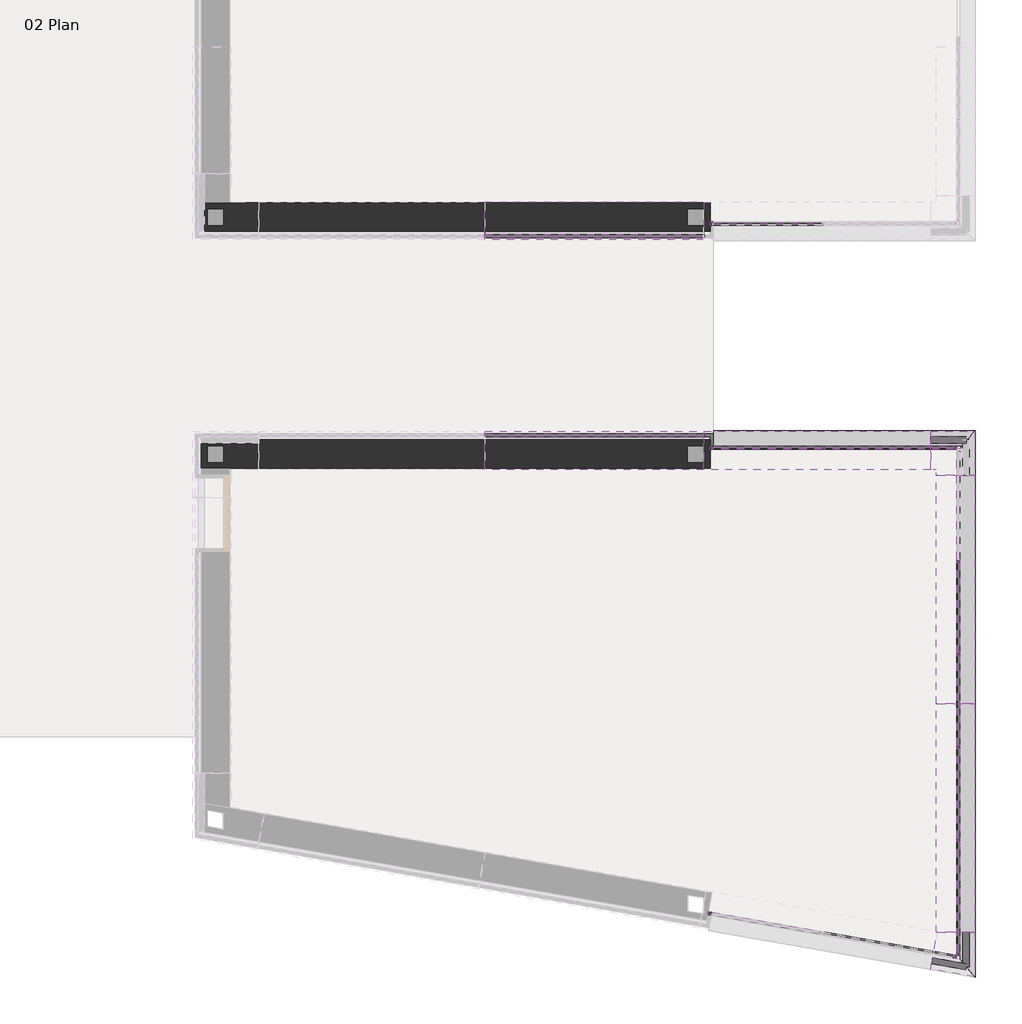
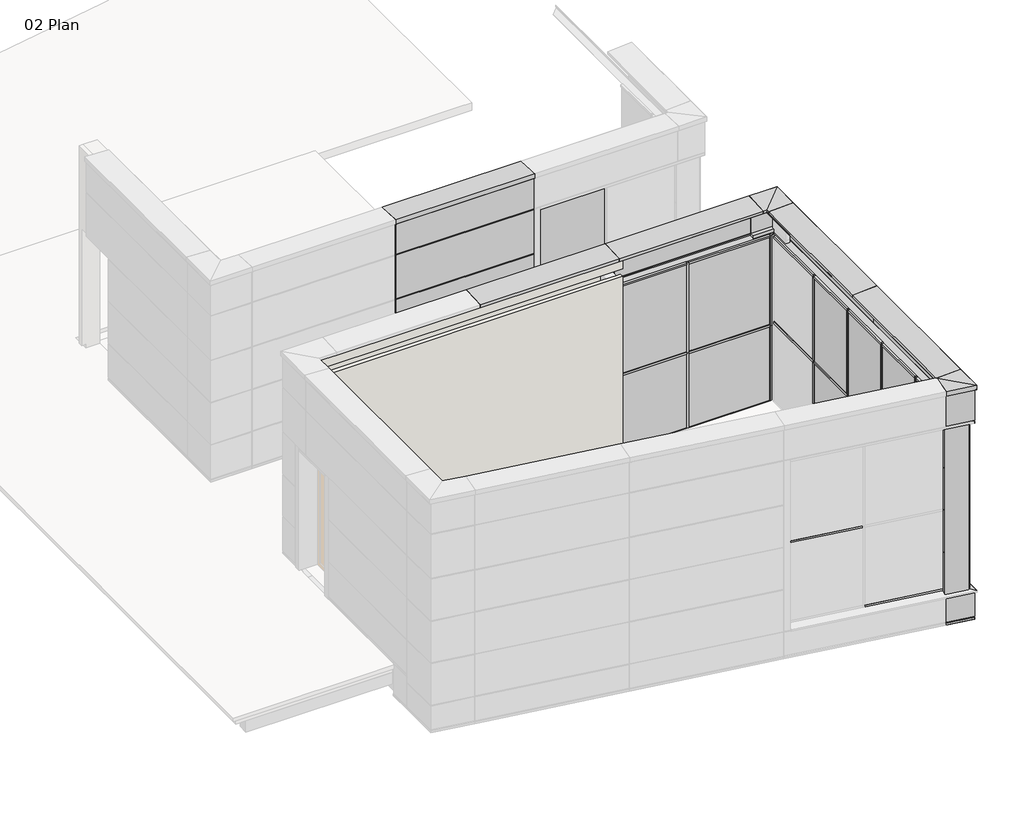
# One storey, part 2 of 6: 47 plates, 46 members, 2 walls.
"""IFC4 building model written with IfcOpenShell, lengths in millimetres."""

from ifc_helpers import new_model, si_unit, origin, place, context, project, spatial, faceted_brep, transform, mapped, element, save
from components import rectangular_mullion_850a0757, rectangular_mullion_f53c5060, rectangular_mullion_af3bd679, rectangular_mullion_539ee6f9, rectangular_mullion_73658c05, rectangular_mullion_dec3059a, rectangular_mullion_8c95c825, rectangular_mullion_a8cc1a1c, rectangular_mullion_915eebd7, rectangular_mullion_38df19ef, rectangular_mullion_461e8916, rectangular_mullion_a225a146, rectangular_mullion_ccb72c30, rectangular_mullion_8513d4ac, rectangular_mullion_322f0c36, rectangular_mullion_cadd6f80, rectangular_mullion_d86f52d7, rectangular_mullion_82dcb137, rectangular_mullion_d40b3f67, rectangular_mullion_7ea7b6c0, rectangular_mullion_30edb573, rectangular_mullion_a2a1290c, rectangular_mullion_f47001dd, rectangular_mullion_888ece7a, rectangular_mullion_a3a34f99, plate_e5f96406, plate_ab3ce5dd, plate_11fb3f57, plate_91b26778, plate_f7d04e19, plate_5e821559, plate_1b8ac71a, plate_b22128cc, plate_62542947, plate_eff8318d, plate_9de24f4d, plate_545d6f73, plate_fe7791f1, plate_de9454b3, empty_system_panel_empty_c4bc2ccb, empty_system_panel_empty_1f0196b9, empty_system_panel_empty_e38a5639, empty_system_panel_empty_568ba75f, empty_system_panel_empty_5409ad96, empty_system_panel_empty_afbb3e91, empty_system_panel_empty_42881ea0, empty_system_panel_empty_753c3ce6, empty_system_panel_empty_c7119242, system_panel_916e9981, system_panel_86b88c2a, system_panel_117f5864, system_panel_4ba8ea04, system_panel_da571503, system_panel_247cbe18, system_panel_5fdebb05, system_panel_5e5adc26, system_panel_c7027d83, system_panel_ba7213d4

model = new_model("IFC4")

# Units and contexts
model_context = context("Model", 3, world=origin())
ifc_project = project(units=[si_unit("LENGTHUNIT", "METRE", prefix="MILLI")], contexts=[model_context])

# Site, building, storey
site = spatial("IfcSite", under=ifc_project)
building = spatial("IfcBuilding", under=site)
storey = spatial("IfcBuildingStorey", under=building, Name="02 Plan", Elevation=0.0)

# Members
placement = place(None, origin())
rectangular_mullion_shape = rectangular_mullion_850a0757(model_context)
element("IfcMember", 1, ObjectType="Rectangular Mullion : Mullion_Curtain Wall_Generic Showcase_50x50mm", at=placement, inside=storey, context=model_context, shape_type="MappedRepresentation", body=[
    mapped(rectangular_mullion_shape, transform((4018.0263241, -13916.5455269, -100.0), x_axis=(-0.984807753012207, 0.17364817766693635, 0.0), y_axis=(0.17364817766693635, 0.984807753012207, 0.0), z_axis=(0.0, 0.0, -1.0))),
])
element("IfcMember", 2, ObjectType="Rectangular Mullion : Mullion_Curtain Wall_Generic Showcase_50x50mm", at=placement, inside=storey, context=model_context, shape_type="MappedRepresentation", body=[
    mapped(rectangular_mullion_shape, transform((4050.6615063, -3004.4104565, -100.0), x_axis=(-1.0, 0.0, 0.0), y_axis=(0.0, 1.0, 0.0), z_axis=(0.0, 0.0, -1.0))),
])
element("IfcMember", 3, ObjectType="Rectangular Mullion : Mullion_Curtain Wall_Generic Showcase_50x50mm", at=placement, inside=storey, context=model_context, shape_type="MappedRepresentation", body=[
    mapped(rectangular_mullion_shape, transform((8000.6615063, -14559.2038842, -100.0), x_axis=(0.0, -1.0, 0.0), y_axis=(-1.0, 0.0, 0.0), z_axis=(0.0, 0.0, -1.0))),
])
element("IfcMember", 4, ObjectType="Rectangular Mullion : Mullion_Curtain Wall_Generic Showcase_50x50mm", at=placement, inside=storey, context=model_context, shape_type="MappedRepresentation", body=[
    mapped(rectangular_mullion_shape, transform((7941.9790974, -14608.4442718, 2075.0), x_axis=(0.984807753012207, -0.17364817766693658, 0.0), y_axis=(0.17364817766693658, 0.984807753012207, 0.0), z_axis=(0.0, 0.0, 1.0))),
])
rectangular_mullion_2_shape = rectangular_mullion_f53c5060(model_context)
element("IfcMember", 5, ObjectType="Rectangular Mullion : Mullion_Curtain Wall_Generic Showcase_50x50mm", at=placement, inside=storey, context=model_context, shape_type="MappedRepresentation", body=[
    mapped(rectangular_mullion_2_shape, transform((7950.6615063, -6504.4104565, -100.0), x_axis=(1.0, 0.0, 0.0), y_axis=(0.0, -1.0, 0.0), z_axis=(0.0, 0.0, -1.0))),
])
element("IfcMember", 6, ObjectType="Rectangular Mullion : Mullion_Curtain Wall_Generic Showcase_50x50mm", at=placement, inside=storey, context=model_context, shape_type="MappedRepresentation", body=[
    mapped(rectangular_mullion_2_shape, transform((4050.6615063, -6504.4104565, 1975.0), x_axis=(-1.0, 0.0, 0.0), y_axis=(0.0, -1.0, 0.0), z_axis=(0.0, 0.0, 1.0))),
])
rectangular_mullion_3_shape = rectangular_mullion_af3bd679(model_context)
element("IfcMember", 7, ObjectType="Rectangular Mullion : Mullion_Curtain Wall_Generic Showcase_50x50mm", at=placement, inside=storey, context=model_context, shape_type="MappedRepresentation", body=[
    mapped(rectangular_mullion_3_shape, transform((4067.2667117, -13925.2279357, 4350.0), x_axis=(0.0, 0.0, 1.0), y_axis=(0.17364817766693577, 0.9848077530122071, 0.0), z_axis=(-0.9848077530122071, 0.17364817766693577, 0.0))),
])
rectangular_mullion_4_shape = rectangular_mullion_539ee6f9(model_context)
element("IfcMember", 8, ObjectType="Rectangular Mullion : Mullion_Curtain Wall_Generic Showcase_50x50mm", at=placement, inside=storey, context=model_context, shape_type="MappedRepresentation", body=[
    mapped(rectangular_mullion_4_shape, transform((4067.2667117, -13925.2279357, 2075.0), x_axis=(0.0, 0.0, 1.0), y_axis=(0.17364817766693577, 0.9848077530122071, 0.0), z_axis=(-0.9848077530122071, 0.17364817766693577, 0.0))),
])
rectangular_mullion_5_shape = rectangular_mullion_73658c05(model_context)
element("IfcMember", 9, ObjectType="Rectangular Mullion : Mullion_Curtain Wall_Generic Showcase_50x50mm", at=placement, inside=storey, context=model_context, shape_type="MappedRepresentation", body=[
    mapped(rectangular_mullion_5_shape, transform((4100.6615063, -3004.4104565, 4350.0), x_axis=(0.0, 0.0, 1.0), y_axis=(0.0, 1.0, 0.0), z_axis=(-1.0, 0.0, 0.0))),
])
element("IfcMember", 10, ObjectType="Rectangular Mullion : Mullion_Curtain Wall_Generic Showcase_50x50mm", at=placement, inside=storey, context=model_context, shape_type="MappedRepresentation", body=[
    mapped(rectangular_mullion_5_shape, transform((5825.6615063, -6504.4104565, 4350.0), x_axis=(0.0, 0.0, 1.0), y_axis=(0.0, -1.0, 0.0), z_axis=(1.0, 0.0, 0.0))),
])
rectangular_mullion_6_shape = rectangular_mullion_dec3059a(model_context)
element("IfcMember", 11, ObjectType="Rectangular Mullion : Mullion_Curtain Wall_Generic Showcase_50x100mm", at=placement, inside=storey, context=model_context, shape_type="MappedRepresentation", body=[
    mapped(rectangular_mullion_6_shape, transform((4100.6615063, -6504.4104565, -100.0), x_axis=(0.0, 0.0, -1.0), y_axis=(0.0, -1.0, 0.0), z_axis=(-1.0, 0.0, 0.0))),
])
rectangular_mullion_7_shape = rectangular_mullion_8c95c825(model_context)
element("IfcMember", 12, ObjectType="Rectangular Mullion : Mullion_Curtain Wall_Generic Showcase_50x50mm", at=placement, inside=storey, context=model_context, shape_type="MappedRepresentation", body=[
    mapped(rectangular_mullion_7_shape, transform((5825.6615063, -6504.4104565, 1975.0), x_axis=(0.0, 0.0, 1.0), y_axis=(0.0, -1.0, 0.0), z_axis=(1.0, 0.0, 0.0))),
])
rectangular_mullion_8_shape = rectangular_mullion_a8cc1a1c(model_context)
element("IfcMember", 13, ObjectType="Rectangular Mullion : Mullion_Curtain Wall_Generic Showcase_50x50mm", at=placement, inside=storey, context=model_context, shape_type="MappedRepresentation", body=[
    mapped(rectangular_mullion_8_shape, transform((5850.6615063, -6504.4104565, -100.0), x_axis=(1.0, 0.0, 0.0), y_axis=(0.0, -1.0, 0.0), z_axis=(0.0, 0.0, -1.0))),
])
rectangular_mullion_9_shape = rectangular_mullion_915eebd7(model_context)
element("IfcMember", 14, ObjectType="Rectangular Mullion : Mullion_Curtain Wall_Generic Showcase_50x50mm", at=placement, inside=storey, context=model_context, shape_type="MappedRepresentation", body=[
    mapped(rectangular_mullion_9_shape, transform((7941.9790974, -14608.4442718, 4350.0), x_axis=(0.984807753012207, -0.17364817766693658, 0.0), y_axis=(0.17364817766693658, 0.984807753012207, 0.0), z_axis=(0.0, 0.0, 1.0))),
])
element("IfcMember", 15, ObjectType="Rectangular Mullion : Mullion_Curtain Wall_Generic Showcase_50x50mm", at=placement, inside=storey, context=model_context, shape_type="MappedRepresentation", body=[
    mapped(rectangular_mullion_9_shape, transform((4018.0263241, -13916.5455269, 2075.0), x_axis=(-0.984807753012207, 0.17364817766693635, 0.0), y_axis=(0.17364817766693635, 0.984807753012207, 0.0), z_axis=(0.0, 0.0, -1.0))),
])
element("IfcMember", 16, ObjectType="Rectangular Mullion : Mullion_Curtain Wall_Generic Showcase_50x50mm", at=placement, inside=storey, context=model_context, shape_type="MappedRepresentation", body=[
    mapped(rectangular_mullion_9_shape, transform((4050.6615063, -3004.4104565, 2075.0), x_axis=(-1.0, 0.0, 0.0), y_axis=(0.0, 1.0, 0.0), z_axis=(0.0, 0.0, -1.0))),
])
rectangular_mullion_10_shape = rectangular_mullion_38df19ef(model_context)
element("IfcMember", 17, ObjectType="Rectangular Mullion : Mullion_Curtain Wall_Generic Showcase_50x50mm", at=placement, inside=storey, context=model_context, shape_type="MappedRepresentation", body=[
    mapped(rectangular_mullion_10_shape, transform((4050.6615063, -6504.4104565, 4350.0), x_axis=(-1.0, 0.0, 0.0), y_axis=(0.0, -1.0, 0.0), z_axis=(0.0, 0.0, 1.0))),
])
element("IfcMember", 18, ObjectType="Rectangular Mullion : Mullion_Curtain Wall_Generic Showcase_50x50mm", at=placement, inside=storey, context=model_context, shape_type="MappedRepresentation", body=[
    mapped(rectangular_mullion_10_shape, transform((7950.6615063, -6504.4104565, 1975.0), x_axis=(1.0, 0.0, 0.0), y_axis=(0.0, -1.0, 0.0), z_axis=(0.0, 0.0, -1.0))),
])
rectangular_mullion_11_shape = rectangular_mullion_461e8916(model_context)
element("IfcMember", 19, ObjectType="Rectangular Mullion : Mullion_Curtain Wall_Generic Showcase_50x50mm", at=placement, inside=storey, context=model_context, shape_type="MappedRepresentation", body=[
    mapped(rectangular_mullion_11_shape, transform((5850.6615063, -6504.4104565, 1975.0), x_axis=(1.0, 0.0, 0.0), y_axis=(0.0, -1.0, 0.0), z_axis=(0.0, 0.0, -1.0))),
])
rectangular_mullion_12_shape = rectangular_mullion_a225a146(model_context)
element("IfcMember", 20, ObjectType="Rectangular Mullion : Mullion_Curtain Wall_Generic Showcase_50x100mm", at=placement, inside=storey, context=model_context, shape_type="MappedRepresentation", body=[
    mapped(rectangular_mullion_12_shape, transform((7892.7387098, -14599.7618629, -100.0), x_axis=(0.0, 0.0, -1.0), y_axis=(0.17364817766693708, 0.9848077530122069, 0.0), z_axis=(0.9848077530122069, -0.17364817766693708, 0.0))),
])
rectangular_mullion_13_shape = rectangular_mullion_ccb72c30(model_context)
element("IfcMember", 21, ObjectType="Rectangular Mullion : Mullion_Curtain Wall_Generic Showcase_50x50mm", at=placement, inside=storey, context=model_context, shape_type="MappedRepresentation", body=[
    mapped(rectangular_mullion_13_shape, transform((7900.6615063, -6504.4104565, 4350.0), x_axis=(0.0, 0.0, 1.0), y_axis=(0.0, -1.0, 0.0), z_axis=(1.0, 0.0, 0.0))),
])
rectangular_mullion_14_shape = rectangular_mullion_8513d4ac(model_context)
element("IfcMember", 22, ObjectType="Rectangular Mullion : Mullion_Curtain Wall_Generic Showcase_50x100mm", at=placement, inside=storey, context=model_context, shape_type="MappedRepresentation", body=[
    mapped(rectangular_mullion_14_shape, transform((5875.6615063, -6504.4104565, -100.0), x_axis=(0.0, 0.0, -1.0), y_axis=(0.0, -1.0, 0.0), z_axis=(-1.0, 0.0, 0.0))),
])
rectangular_mullion_15_shape = rectangular_mullion_322f0c36(model_context)
element("IfcMember", 23, ObjectType="Rectangular Mullion : Mullion_Curtain Wall_Generic Showcase_50x50mm", at=placement, inside=storey, context=model_context, shape_type="MappedRepresentation", body=[
    mapped(rectangular_mullion_15_shape, transform((7900.6615063, -6504.4104565, 1975.0), x_axis=(0.0, 0.0, 1.0), y_axis=(0.0, -1.0, 0.0), z_axis=(1.0, 0.0, 0.0))),
])
rectangular_mullion_16_shape = rectangular_mullion_cadd6f80(model_context)
element("IfcMember", 24, ObjectType="Rectangular Mullion : Mullion_Curtain Wall_Generic Showcase_50x50mm", at=placement, inside=storey, context=model_context, shape_type="MappedRepresentation", body=[
    mapped(rectangular_mullion_16_shape, transform((8000.6615063, -14509.2038842, 4350.0), x_axis=(0.0, 0.0, 1.0), y_axis=(-1.0, 0.0, 0.0), z_axis=(0.0, -1.0, 0.0))),
])
rectangular_mullion_17_shape = rectangular_mullion_d86f52d7(model_context)
element("IfcMember", 25, ObjectType="Rectangular Mullion : Mullion_Curtain Wall_Generic Showcase_50x100mm", at=placement, inside=storey, context=model_context, shape_type="MappedRepresentation", body=[
    mapped(rectangular_mullion_17_shape, transform((8000.6615063, -8348.8639265, -100.0), x_axis=(0.0, 0.0, -1.0), y_axis=(-1.0, 0.0, 0.0), z_axis=(0.0, 1.0, 0.0))),
])
element("IfcMember", 26, ObjectType="Rectangular Mullion : Mullion_Curtain Wall_Generic Showcase_50x100mm", at=placement, inside=storey, context=model_context, shape_type="MappedRepresentation", body=[
    mapped(rectangular_mullion_17_shape, transform((8000.6615063, -9818.3173965, -100.0), x_axis=(0.0, 0.0, -1.0), y_axis=(-1.0, 0.0, 0.0), z_axis=(0.0, 1.0, 0.0))),
])
element("IfcMember", 27, ObjectType="Rectangular Mullion : Mullion_Curtain Wall_Generic Showcase_50x100mm", at=placement, inside=storey, context=model_context, shape_type="MappedRepresentation", body=[
    mapped(rectangular_mullion_17_shape, transform((8000.6615063, -11287.7708664, -100.0), x_axis=(0.0, 0.0, -1.0), y_axis=(-1.0, 0.0, 0.0), z_axis=(0.0, 1.0, 0.0))),
])
rectangular_mullion_18_shape = rectangular_mullion_82dcb137(model_context)
element("IfcMember", 28, ObjectType="Rectangular Mullion : Mullion_Curtain Wall_Generic Showcase_50x50mm", at=placement, inside=storey, context=model_context, shape_type="MappedRepresentation", body=[
    mapped(rectangular_mullion_18_shape, transform((8000.6615063, -9768.3173965, 2075.0), x_axis=(0.0, 0.0, 1.0), y_axis=(-1.0, 0.0, 0.0), z_axis=(0.0, -1.0, 0.0))),
])
element("IfcMember", 29, ObjectType="Rectangular Mullion : Mullion_Curtain Wall_Generic Showcase_50x50mm", at=placement, inside=storey, context=model_context, shape_type="MappedRepresentation", body=[
    mapped(rectangular_mullion_18_shape, transform((8000.6615063, -11237.7708664, 2075.0), x_axis=(0.0, 0.0, 1.0), y_axis=(-1.0, 0.0, 0.0), z_axis=(0.0, -1.0, 0.0))),
])
element("IfcMember", 30, ObjectType="Rectangular Mullion : Mullion_Curtain Wall_Generic Showcase_50x50mm", at=placement, inside=storey, context=model_context, shape_type="MappedRepresentation", body=[
    mapped(rectangular_mullion_18_shape, transform((8000.6615063, -12707.2243364, 2075.0), x_axis=(0.0, 0.0, 1.0), y_axis=(-1.0, 0.0, 0.0), z_axis=(0.0, -1.0, 0.0))),
])
rectangular_mullion_19_shape = rectangular_mullion_d40b3f67(model_context)
element("IfcMember", 31, ObjectType="Rectangular Mullion : Mullion_Curtain Wall_Generic Showcase_50x50mm", at=placement, inside=storey, context=model_context, shape_type="MappedRepresentation", body=[
    mapped(rectangular_mullion_19_shape, transform((8000.6615063, -8323.8639265, -100.0), x_axis=(0.0, -1.0, 0.0), y_axis=(-1.0, 0.0, 0.0), z_axis=(0.0, 0.0, -1.0))),
])
element("IfcMember", 32, ObjectType="Rectangular Mullion : Mullion_Curtain Wall_Generic Showcase_50x50mm", at=placement, inside=storey, context=model_context, shape_type="MappedRepresentation", body=[
    mapped(rectangular_mullion_19_shape, transform((8000.6615063, -9793.3173965, -100.0), x_axis=(0.0, -1.0, 0.0), y_axis=(-1.0, 0.0, 0.0), z_axis=(0.0, 0.0, -1.0))),
])
element("IfcMember", 33, ObjectType="Rectangular Mullion : Mullion_Curtain Wall_Generic Showcase_50x50mm", at=placement, inside=storey, context=model_context, shape_type="MappedRepresentation", body=[
    mapped(rectangular_mullion_19_shape, transform((8000.6615063, -11262.7708664, -100.0), x_axis=(0.0, -1.0, 0.0), y_axis=(-1.0, 0.0, 0.0), z_axis=(0.0, 0.0, -1.0))),
])
element("IfcMember", 34, ObjectType="Rectangular Mullion : Mullion_Curtain Wall_Generic Showcase_50x50mm", at=placement, inside=storey, context=model_context, shape_type="MappedRepresentation", body=[
    mapped(rectangular_mullion_19_shape, transform((8000.6615063, -12732.2243364, -100.0), x_axis=(0.0, -1.0, 0.0), y_axis=(-1.0, 0.0, 0.0), z_axis=(0.0, 0.0, -1.0))),
])
rectangular_mullion_20_shape = rectangular_mullion_7ea7b6c0(model_context)
element("IfcMember", 35, ObjectType="Rectangular Mullion : Mullion_Curtain Wall_Generic Showcase_50x50mm", at=placement, inside=storey, context=model_context, shape_type="MappedRepresentation", body=[
    mapped(rectangular_mullion_20_shape, transform((8000.6615063, -8323.8639265, 2075.0), x_axis=(0.0, -1.0, 0.0), y_axis=(-1.0, 0.0, 0.0), z_axis=(0.0, 0.0, -1.0))),
])
element("IfcMember", 36, ObjectType="Rectangular Mullion : Mullion_Curtain Wall_Generic Showcase_50x50mm", at=placement, inside=storey, context=model_context, shape_type="MappedRepresentation", body=[
    mapped(rectangular_mullion_20_shape, transform((8000.6615063, -9793.3173965, 2075.0), x_axis=(0.0, -1.0, 0.0), y_axis=(-1.0, 0.0, 0.0), z_axis=(0.0, 0.0, -1.0))),
])
element("IfcMember", 37, ObjectType="Rectangular Mullion : Mullion_Curtain Wall_Generic Showcase_50x50mm", at=placement, inside=storey, context=model_context, shape_type="MappedRepresentation", body=[
    mapped(rectangular_mullion_20_shape, transform((8000.6615063, -11262.7708664, 2075.0), x_axis=(0.0, -1.0, 0.0), y_axis=(-1.0, 0.0, 0.0), z_axis=(0.0, 0.0, -1.0))),
])
element("IfcMember", 38, ObjectType="Rectangular Mullion : Mullion_Curtain Wall_Generic Showcase_50x50mm", at=placement, inside=storey, context=model_context, shape_type="MappedRepresentation", body=[
    mapped(rectangular_mullion_20_shape, transform((8000.6615063, -12732.2243364, 2075.0), x_axis=(0.0, -1.0, 0.0), y_axis=(-1.0, 0.0, 0.0), z_axis=(0.0, 0.0, -1.0))),
])
rectangular_mullion_21_shape = rectangular_mullion_30edb573(model_context)
element("IfcMember", 39, ObjectType="Rectangular Mullion : Mullion_Curtain Wall_Generic Showcase_50x50mm", at=placement, inside=storey, context=model_context, shape_type="MappedRepresentation", body=[
    mapped(rectangular_mullion_21_shape, transform((8000.6615063, -9768.3173965, 4350.0), x_axis=(0.0, 0.0, 1.0), y_axis=(-1.0, 0.0, 0.0), z_axis=(0.0, -1.0, 0.0))),
])
element("IfcMember", 40, ObjectType="Rectangular Mullion : Mullion_Curtain Wall_Generic Showcase_50x50mm", at=placement, inside=storey, context=model_context, shape_type="MappedRepresentation", body=[
    mapped(rectangular_mullion_21_shape, transform((8000.6615063, -11237.7708664, 4350.0), x_axis=(0.0, 0.0, 1.0), y_axis=(-1.0, 0.0, 0.0), z_axis=(0.0, -1.0, 0.0))),
])
element("IfcMember", 41, ObjectType="Rectangular Mullion : Mullion_Curtain Wall_Generic Showcase_50x50mm", at=placement, inside=storey, context=model_context, shape_type="MappedRepresentation", body=[
    mapped(rectangular_mullion_21_shape, transform((8000.6615063, -12707.2243364, 4350.0), x_axis=(0.0, 0.0, 1.0), y_axis=(-1.0, 0.0, 0.0), z_axis=(0.0, -1.0, 0.0))),
])
rectangular_mullion_22_shape = rectangular_mullion_a2a1290c(model_context)
element("IfcMember", 42, ObjectType="Rectangular Mullion : Mullion_Curtain Wall_Generic Showcase_50x100mm", at=placement, inside=storey, context=model_context, shape_type="MappedRepresentation", body=[
    mapped(rectangular_mullion_22_shape, transform((8000.6615063, -12757.2243364, -100.0), x_axis=(0.0, 0.0, -1.0), y_axis=(-1.0, 0.0, 0.0), z_axis=(0.0, 1.0, 0.0))),
])
rectangular_mullion_23_shape = rectangular_mullion_f47001dd(model_context)
element("IfcMember", 43, ObjectType="Rectangular Mullion : Mullion_Curtain Wall_Generic Showcase_50x50mm", at=placement, inside=storey, context=model_context, shape_type="MappedRepresentation", body=[
    mapped(rectangular_mullion_23_shape, transform((8000.6615063, -14509.2038842, 2075.0), x_axis=(0.0, 0.0, 1.0), y_axis=(-1.0, 0.0, 0.0), z_axis=(0.0, -1.0, 0.0))),
])
element("IfcMember", 44, ObjectType="Rectangular Mullion : Mullion_Curtain Wall_Generic Showcase_50x50mm", at=placement, inside=storey, context=model_context, shape_type="MappedRepresentation", body=[
    mapped(rectangular_mullion_9_shape, transform((8000.6615063, -14559.2038842, 2075.0), x_axis=(0.0, -1.0, 0.0), y_axis=(-1.0, 0.0, 0.0), z_axis=(0.0, 0.0, -1.0))),
])
rectangular_mullion_24_shape = rectangular_mullion_888ece7a(model_context)
element("IfcMember", 45, ObjectType="Rectangular Mullion : Mullion_Curtain Wall_Generic Showcase_50x50mm", at=placement, inside=storey, context=model_context, shape_type="MappedRepresentation", body=[
    mapped(rectangular_mullion_24_shape, transform((8000.6615063, -8298.8639265, 2075.0), x_axis=(0.0, 0.0, 1.0), y_axis=(-1.0, 0.0, 0.0), z_axis=(0.0, -1.0, 0.0))),
])
rectangular_mullion_25_shape = rectangular_mullion_a3a34f99(model_context)
element("IfcMember", 46, ObjectType="Rectangular Mullion : Mullion_Curtain Wall_Generic Showcase_50x50mm", at=placement, inside=storey, context=model_context, shape_type="MappedRepresentation", body=[
    mapped(rectangular_mullion_25_shape, transform((8000.6615063, -8298.8639265, 4350.0), x_axis=(0.0, 0.0, 1.0), y_axis=(-1.0, 0.0, 0.0), z_axis=(0.0, -1.0, 0.0))),
])

# Plates
plate_shape = plate_e5f96406(model_context)
element("IfcPlate", 47, ObjectType="Trimo_Qbiss Screen_L Corner Panel-HORIZONTAL : HR - B", at=placement, inside=storey, context=model_context, shape_type="MappedRepresentation", body=[
    mapped(plate_shape, transform((8100.6615063, -14466.3046027, -750.0), x_axis=(0.0, -1.0, 0.0), y_axis=(1.0, 0.0, 0.0), z_axis=(0.0, 0.0, 1.0))),
])
plate_2_shape = plate_ab3ce5dd(model_context)
element("IfcPlate", 48, ObjectType="Trimo_Qbiss Screen_L Corner Panel-HORIZONTAL : HR - B", at=placement, inside=storey, context=model_context, shape_type="MappedRepresentation", body=[
    mapped(plate_2_shape, transform((8100.6615063, -14466.3046027, 4410.0), x_axis=(0.0, -1.0, 0.0), y_axis=(1.0, 0.0, 0.0), z_axis=(0.0, 0.0, 1.0))),
])
plate_3_shape = plate_11fb3f57(model_context)
element("IfcPlate", 49, ObjectType="Trimo_Qbiss Screen_L Corner Panel-HORIZONTAL : HR - B", at=placement, inside=storey, context=model_context, shape_type="MappedRepresentation", body=[
    mapped(plate_3_shape, transform((7819.4115063, -6404.4104565, 4410.0), x_axis=(1.0, 0.0, 0.0), y_axis=(0.0, 1.0, 0.0), z_axis=(0.0, 0.0, 1.0))),
])
plate_4_shape = plate_91b26778(model_context)
element("IfcPlate", 50, ObjectType="Trimo_Qbiss Screen_L Corner Panel-HORIZONTAL : HR - B", at=placement, inside=storey, context=model_context, shape_type="MappedRepresentation", body=[
    mapped(plate_4_shape, transform((7819.4115063, -6404.4104565, -750.0), x_axis=(1.0, 0.0, 0.0), y_axis=(0.0, 1.0, 0.0), z_axis=(0.0, 0.0, 1.0))),
])
plate_5_shape = plate_f7d04e19(model_context)
element("IfcPlate", 51, ObjectType="Trimo_Qbiss Screen_Normal Panel-HORIZONTAL : HR - B", at=placement, inside=storey, context=model_context, shape_type="MappedRepresentation", body=[
    mapped(plate_5_shape, transform((2220.6615063, -3104.4104565, 4410.0), x_axis=(-1.0, 0.0, 0.0), y_axis=(0.0, -1.0, 0.0), z_axis=(0.0, 0.0, 1.0))),
])
element("IfcPlate", 52, ObjectType="Trimo_Qbiss Screen_Normal Panel-HORIZONTAL : HR - B", at=placement, inside=storey, context=model_context, shape_type="MappedRepresentation", body=[
    mapped(plate_5_shape, transform((2220.6615063, -6404.4104565, 4410.0), x_axis=(1.0, 0.0, 0.0), y_axis=(0.0, 1.0, 0.0), z_axis=(0.0, 0.0, 1.0))),
])
plate_6_shape = plate_5e821559(model_context)
element("IfcPlate", 53, ObjectType="Trimo_Qbiss Screen_Normal Panel-HORIZONTAL : HR - B", at=placement, inside=storey, context=model_context, shape_type="MappedRepresentation", body=[
    mapped(plate_6_shape, transform((8100.6615063, -12387.7093259, -750.0), x_axis=(0.0, -1.0, 0.0), y_axis=(1.0, 0.0, 0.0), z_axis=(0.0, 0.0, 1.0))),
])
element("IfcPlate", 54, ObjectType="Trimo_Qbiss Screen_Normal Panel-HORIZONTAL : HR - B", at=placement, inside=storey, context=model_context, shape_type="MappedRepresentation", body=[
    mapped(plate_6_shape, transform((8100.6615063, -8773.843413, -750.0), x_axis=(0.0, -1.0, 0.0), y_axis=(1.0, 0.0, 0.0), z_axis=(0.0, 0.0, 1.0))),
])
plate_7_shape = plate_1b8ac71a(model_context)
element("IfcPlate", 55, ObjectType="Trimo_Qbiss Screen_Normal Panel-HORIZONTAL : HR - B", at=placement, inside=storey, context=model_context, shape_type="MappedRepresentation", body=[
    mapped(plate_7_shape, transform((8100.6615063, -12387.7093259, 4410.0), x_axis=(0.0, -1.0, 0.0), y_axis=(1.0, 0.0, 0.0), z_axis=(0.0, 0.0, 1.0))),
])
element("IfcPlate", 56, ObjectType="Trimo_Qbiss Screen_Normal Panel-HORIZONTAL : HR - B", at=placement, inside=storey, context=model_context, shape_type="MappedRepresentation", body=[
    mapped(plate_7_shape, transform((8100.6615063, -8773.843413, 4410.0), x_axis=(0.0, -1.0, 0.0), y_axis=(1.0, 0.0, 0.0), z_axis=(0.0, 0.0, 1.0))),
])
plate_8_shape = plate_b22128cc(model_context)
element("IfcPlate", 57, ObjectType="Trimo_Qbiss Screen_Normal Panel-HORIZONTAL : HR - B", at=placement, inside=storey, context=model_context, shape_type="MappedRepresentation", body=[
    mapped(plate_8_shape, transform((2220.6615063, -6404.4104565, 3237.5), x_axis=(1.0, 0.0, 0.0), y_axis=(0.0, 1.0, 0.0), z_axis=(0.0, 0.0, 1.0))),
])
element("IfcPlate", 58, ObjectType="Trimo_Qbiss Screen_Normal Panel-HORIZONTAL : HR - B", at=placement, inside=storey, context=model_context, shape_type="MappedRepresentation", body=[
    mapped(plate_8_shape, transform((2220.6615063, -3104.4104565, 3237.5), x_axis=(-1.0, 0.0, 0.0), y_axis=(0.0, -1.0, 0.0), z_axis=(0.0, 0.0, 1.0))),
])
plate_9_shape = plate_62542947(model_context)
element("IfcPlate", 59, ObjectType="Trimo_Qbiss Screen_Normal Panel-HORIZONTAL : HR - B", at=placement, inside=storey, context=model_context, shape_type="MappedRepresentation", body=[
    mapped(plate_9_shape, transform((2220.6615063, -3104.4104565, 100.0), x_axis=(-1.0, 0.0, 0.0), y_axis=(0.0, -1.0, 0.0), z_axis=(0.0, 0.0, 1.0))),
])
element("IfcPlate", 60, ObjectType="Trimo_Qbiss Screen_Normal Panel-HORIZONTAL : HR - B", at=placement, inside=storey, context=model_context, shape_type="MappedRepresentation", body=[
    mapped(plate_9_shape, transform((2220.6615063, -6404.4104565, 100.0), x_axis=(1.0, 0.0, 0.0), y_axis=(0.0, 1.0, 0.0), z_axis=(0.0, 0.0, 1.0))),
])
plate_10_shape = plate_eff8318d(model_context)
element("IfcPlate", 61, ObjectType="Trimo_Qbiss Screen_Normal Panel-HORIZONTAL : HR - B", at=placement, inside=storey, context=model_context, shape_type="MappedRepresentation", body=[
    mapped(plate_10_shape, transform((2220.6615063, -6404.4104565, 1012.5), x_axis=(1.0, 0.0, 0.0), y_axis=(0.0, 1.0, 0.0), z_axis=(0.0, 0.0, 1.0))),
])
element("IfcPlate", 62, ObjectType="Trimo_Qbiss Screen_Normal Panel-HORIZONTAL : HR - B", at=placement, inside=storey, context=model_context, shape_type="MappedRepresentation", body=[
    mapped(plate_10_shape, transform((2220.6615063, -6404.4104565, 2125.0), x_axis=(1.0, 0.0, 0.0), y_axis=(0.0, 1.0, 0.0), z_axis=(0.0, 0.0, 1.0))),
])
element("IfcPlate", 63, ObjectType="Trimo_Qbiss Screen_Normal Panel-HORIZONTAL : HR - B", at=placement, inside=storey, context=model_context, shape_type="MappedRepresentation", body=[
    mapped(plate_10_shape, transform((2220.6615063, -3104.4104565, 2125.0), x_axis=(-1.0, 0.0, 0.0), y_axis=(0.0, -1.0, 0.0), z_axis=(0.0, 0.0, 1.0))),
])
element("IfcPlate", 64, ObjectType="Trimo_Qbiss Screen_Normal Panel-HORIZONTAL : HR - B", at=placement, inside=storey, context=model_context, shape_type="MappedRepresentation", body=[
    mapped(plate_10_shape, transform((2220.6615063, -3104.4104565, 1012.5), x_axis=(-1.0, 0.0, 0.0), y_axis=(0.0, -1.0, 0.0), z_axis=(0.0, 0.0, 1.0))),
])
plate_11_shape = plate_9de24f4d(model_context)
element("IfcPlate", 65, ObjectType="Trimo_Qbiss Screen_Normal Panel-HORIZONTAL : HR - B", at=placement, inside=storey, context=model_context, shape_type="MappedRepresentation", body=[
    mapped(plate_11_shape, transform((5745.6615063, -6404.4104565, 4410.0), x_axis=(1.0, 0.0, 0.0), y_axis=(0.0, 1.0, 0.0), z_axis=(0.0, 0.0, 1.0))),
])
plate_12_shape = plate_545d6f73(model_context)
element("IfcPlate", 66, ObjectType="Trimo_Qbiss Screen_Normal Panel-HORIZONTAL : HR - B", at=placement, inside=storey, context=model_context, shape_type="MappedRepresentation", body=[
    mapped(plate_12_shape, transform((5745.6615063, -6404.4104565, -750.0), x_axis=(1.0, 0.0, 0.0), y_axis=(0.0, 1.0, 0.0), z_axis=(0.0, 0.0, 1.0))),
])
plate_13_shape = plate_fe7791f1(model_context)
element("IfcPlate", 67, ObjectType="Trimo_Qbiss Screen_Wall Opening Trims-HORIZONTAL : HR - B", at=placement, inside=storey, context=model_context, shape_type="MappedRepresentation", body=[
    mapped(plate_13_shape, transform((5745.6615063, -6404.4104565, -100.0), x_axis=(1.0, 0.0, 0.0), y_axis=(0.0, 1.0, 0.0), z_axis=(0.0, 0.0, 1.0))),
])
plate_14_shape = plate_de9454b3(model_context)
element("IfcPlate", 68, ObjectType="Trimo_Qbiss Screen_Wall Opening Trims-HORIZONTAL : HR - B", at=placement, inside=storey, context=model_context, shape_type="MappedRepresentation", body=[
    mapped(plate_14_shape, transform((8100.6615063, -10580.7763694, -100.0), x_axis=(0.0, -1.0, 0.0), y_axis=(1.0, 0.0, 0.0), z_axis=(0.0, 0.0, 1.0))),
])
empty_system_panel_empty_shape = empty_system_panel_empty_c4bc2ccb(model_context)
element("IfcPlate", 69, ObjectType="Empty System Panel : Empty", at=placement, inside=storey, context=model_context, shape_type="MappedRepresentation", body=[
    mapped(empty_system_panel_empty_shape, transform((7819.4115063, -6404.4104565, -100.0), x_axis=(1.0, 0.0, 0.0), y_axis=(0.0, 1.0, 0.0), z_axis=(0.0, 0.0, 1.0))),
])
empty_system_panel_empty_2_shape = empty_system_panel_empty_1f0196b9(model_context)
element("IfcPlate", 70, ObjectType="Empty System Panel : Empty", at=placement, inside=storey, context=model_context, shape_type="MappedRepresentation", body=[
    mapped(empty_system_panel_empty_2_shape, transform((7819.4115063, -6404.4104565, 100.0), x_axis=(1.0, 0.0, 0.0), y_axis=(0.0, 1.0, 0.0), z_axis=(0.0, 0.0, 1.0))),
])
empty_system_panel_empty_3_shape = empty_system_panel_empty_e38a5639(model_context)
element("IfcPlate", 71, ObjectType="Empty System Panel : Empty", at=placement, inside=storey, context=model_context, shape_type="MappedRepresentation", body=[
    mapped(empty_system_panel_empty_3_shape, transform((7819.4115063, -6404.4104565, 2125.0), x_axis=(1.0, 0.0, 0.0), y_axis=(0.0, 1.0, 0.0), z_axis=(0.0, 0.0, 1.0))),
])
element("IfcPlate", 72, ObjectType="Empty System Panel : Empty", at=placement, inside=storey, context=model_context, shape_type="MappedRepresentation", body=[
    mapped(empty_system_panel_empty_3_shape, transform((7819.4115063, -6404.4104565, 1012.5), x_axis=(1.0, 0.0, 0.0), y_axis=(0.0, 1.0, 0.0), z_axis=(0.0, 0.0, 1.0))),
])
empty_system_panel_empty_4_shape = empty_system_panel_empty_568ba75f(model_context)
element("IfcPlate", 73, ObjectType="Empty System Panel : Empty", at=placement, inside=storey, context=model_context, shape_type="MappedRepresentation", body=[
    mapped(empty_system_panel_empty_4_shape, transform((7833.126347, -14690.7932562, -750.0), x_axis=(-0.9848077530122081, 0.1736481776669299, 0.0), y_axis=(-0.1736481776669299, -0.9848077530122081, 0.0), z_axis=(0.0, 0.0, 1.0))),
])
empty_system_panel_empty_5_shape = empty_system_panel_empty_5409ad96(model_context)
element("IfcPlate", 74, ObjectType="Empty System Panel : Empty", at=placement, inside=storey, context=model_context, shape_type="MappedRepresentation", body=[
    mapped(empty_system_panel_empty_5_shape, transform((8100.6615063, -14466.3046027, -100.0), x_axis=(0.0, -1.0, 0.0), y_axis=(1.0, 0.0, 0.0), z_axis=(0.0, 0.0, 1.0))),
])
empty_system_panel_empty_6_shape = empty_system_panel_empty_afbb3e91(model_context)
element("IfcPlate", 75, ObjectType="Empty System Panel : Empty", at=placement, inside=storey, context=model_context, shape_type="MappedRepresentation", body=[
    mapped(empty_system_panel_empty_6_shape, transform((7833.126347, -14690.7932562, -100.0), x_axis=(-0.9848077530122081, 0.1736481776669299, 0.0), y_axis=(-0.1736481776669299, -0.9848077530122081, 0.0), z_axis=(0.0, 0.0, 1.0))),
])
empty_system_panel_empty_7_shape = empty_system_panel_empty_42881ea0(model_context)
element("IfcPlate", 76, ObjectType="Empty System Panel : Empty", at=placement, inside=storey, context=model_context, shape_type="MappedRepresentation", body=[
    mapped(empty_system_panel_empty_7_shape, transform((7833.126347, -14690.7932562, 4410.0), x_axis=(-0.9848077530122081, 0.1736481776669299, 0.0), y_axis=(-0.1736481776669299, -0.9848077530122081, 0.0), z_axis=(0.0, 0.0, 1.0))),
])
empty_system_panel_empty_8_shape = empty_system_panel_empty_753c3ce6(model_context)
element("IfcPlate", 77, ObjectType="Empty System Panel : Empty", at=placement, inside=storey, context=model_context, shape_type="MappedRepresentation", body=[
    mapped(empty_system_panel_empty_8_shape, transform((7819.4115063, -6404.4104565, 3237.5), x_axis=(1.0, 0.0, 0.0), y_axis=(0.0, 1.0, 0.0), z_axis=(0.0, 0.0, 1.0))),
])
empty_system_panel_empty_9_shape = empty_system_panel_empty_c7119242(model_context)
element("IfcPlate", 78, ObjectType="Empty System Panel : Empty", at=placement, inside=storey, context=model_context, shape_type="MappedRepresentation", body=[
    mapped(empty_system_panel_empty_9_shape, transform((2220.6615063, -3104.4104565, -750.0), x_axis=(-1.0, 0.0, 0.0), y_axis=(0.0, -1.0, 0.0), z_axis=(0.0, 0.0, 1.0))),
])
element("IfcPlate", 79, ObjectType="Empty System Panel : Empty", at=placement, inside=storey, context=model_context, shape_type="MappedRepresentation", body=[
    mapped(empty_system_panel_empty_9_shape, transform((2220.6615063, -6404.4104565, -750.0), x_axis=(1.0, 0.0, 0.0), y_axis=(0.0, 1.0, 0.0), z_axis=(0.0, 0.0, 1.0))),
])
system_panel_shape = system_panel_916e9981(model_context)
element("IfcPlate", 80, ObjectType="System Panel : Panel_Glazed_Generic Showcase_30mm", at=placement, inside=storey, context=model_context, shape_type="MappedRepresentation", body=[
    mapped(system_panel_shape, transform((4963.1615063, -3004.4104565, 0.0), x_axis=(-1.0, 0.0, 0.0), y_axis=(0.0, -1.0, 0.0), z_axis=(0.0, 0.0, 1.0))),
])
system_panel_2_shape = system_panel_86b88c2a(model_context)
element("IfcPlate", 81, ObjectType="System Panel : Panel_Glazed_Generic Showcase_30mm", at=placement, inside=storey, context=model_context, shape_type="MappedRepresentation", body=[
    mapped(system_panel_2_shape, transform((4963.1615063, -6504.4104565, 0.0), x_axis=(1.0, 0.0, 0.0), y_axis=(0.0, 1.0, 0.0), z_axis=(0.0, 0.0, 1.0))),
])
system_panel_3_shape = system_panel_117f5864(model_context)
element("IfcPlate", 82, ObjectType="System Panel : Panel_Glazed_Generic Showcase_30mm", at=placement, inside=storey, context=model_context, shape_type="MappedRepresentation", body=[
    mapped(system_panel_3_shape, transform((4963.1615063, -3004.4104565, 2100.0), x_axis=(-1.0, 0.0, 0.0), y_axis=(0.0, -1.0, 0.0), z_axis=(0.0, 0.0, 1.0))),
])
system_panel_4_shape = system_panel_4ba8ea04(model_context)
element("IfcPlate", 83, ObjectType="System Panel : Panel_Glazed_Generic Showcase_30mm", at=placement, inside=storey, context=model_context, shape_type="MappedRepresentation", body=[
    mapped(system_panel_4_shape, transform((4963.1615063, -6504.4104565, 2000.0), x_axis=(1.0, 0.0, 0.0), y_axis=(0.0, 1.0, 0.0), z_axis=(0.0, 0.0, 1.0))),
])
system_panel_5_shape = system_panel_da571503(model_context)
element("IfcPlate", 84, ObjectType="System Panel : Panel_Glazed_Generic Showcase_30mm", at=placement, inside=storey, context=model_context, shape_type="MappedRepresentation", body=[
    mapped(system_panel_5_shape, transform((6888.1615063, -6504.4104565, 0.0), x_axis=(1.0, 0.0, 0.0), y_axis=(0.0, 1.0, 0.0), z_axis=(0.0, 0.0, 1.0))),
])
system_panel_6_shape = system_panel_247cbe18(model_context)
element("IfcPlate", 85, ObjectType="System Panel : Panel_Glazed_Generic Showcase_30mm", at=placement, inside=storey, context=model_context, shape_type="MappedRepresentation", body=[
    mapped(system_panel_6_shape, transform((6888.1615063, -6504.4104565, 2000.0), x_axis=(1.0, 0.0, 0.0), y_axis=(0.0, 1.0, 0.0), z_axis=(0.0, 0.0, 1.0))),
])
system_panel_7_shape = system_panel_5fdebb05(model_context)
element("IfcPlate", 86, ObjectType="System Panel : Panel_Glazed_Generic Showcase_30mm", at=placement, inside=storey, context=model_context, shape_type="MappedRepresentation", body=[
    mapped(system_panel_7_shape, transform((8000.6615063, -9058.5906615, 0.0), x_axis=(0.0, -1.0, 0.0), y_axis=(1.0, 0.0, 0.0), z_axis=(0.0, 0.0, 1.0))),
])
element("IfcPlate", 87, ObjectType="System Panel : Panel_Glazed_Generic Showcase_30mm", at=placement, inside=storey, context=model_context, shape_type="MappedRepresentation", body=[
    mapped(system_panel_7_shape, transform((8000.6615063, -10528.0441315, 0.0), x_axis=(0.0, -1.0, 0.0), y_axis=(1.0, 0.0, 0.0), z_axis=(0.0, 0.0, 1.0))),
])
element("IfcPlate", 88, ObjectType="System Panel : Panel_Glazed_Generic Showcase_30mm", at=placement, inside=storey, context=model_context, shape_type="MappedRepresentation", body=[
    mapped(system_panel_7_shape, transform((8000.6615063, -11997.4976014, 0.0), x_axis=(0.0, -1.0, 0.0), y_axis=(1.0, 0.0, 0.0), z_axis=(0.0, 0.0, 1.0))),
])
system_panel_8_shape = system_panel_5e5adc26(model_context)
element("IfcPlate", 89, ObjectType="System Panel : Panel_Glazed_Generic Showcase_30mm", at=placement, inside=storey, context=model_context, shape_type="MappedRepresentation", body=[
    mapped(system_panel_8_shape, transform((8000.6615063, -9058.5906615, 2100.0), x_axis=(0.0, -1.0, 0.0), y_axis=(1.0, 0.0, 0.0), z_axis=(0.0, 0.0, 1.0))),
])
element("IfcPlate", 90, ObjectType="System Panel : Panel_Glazed_Generic Showcase_30mm", at=placement, inside=storey, context=model_context, shape_type="MappedRepresentation", body=[
    mapped(system_panel_8_shape, transform((8000.6615063, -10528.0441315, 2100.0), x_axis=(0.0, -1.0, 0.0), y_axis=(1.0, 0.0, 0.0), z_axis=(0.0, 0.0, 1.0))),
])
element("IfcPlate", 91, ObjectType="System Panel : Panel_Glazed_Generic Showcase_30mm", at=placement, inside=storey, context=model_context, shape_type="MappedRepresentation", body=[
    mapped(system_panel_8_shape, transform((8000.6615063, -11997.4976014, 2100.0), x_axis=(0.0, -1.0, 0.0), y_axis=(1.0, 0.0, 0.0), z_axis=(0.0, 0.0, 1.0))),
])
system_panel_9_shape = system_panel_c7027d83(model_context)
element("IfcPlate", 92, ObjectType="System Panel : Panel_Glazed_Generic Showcase_30mm", at=placement, inside=storey, context=model_context, shape_type="MappedRepresentation", body=[
    mapped(system_panel_9_shape, transform((8000.6615063, -13633.2141103, 0.0), x_axis=(0.0, -1.0, 0.0), y_axis=(1.0, 0.0, 0.0), z_axis=(0.0, 0.0, 1.0))),
])
system_panel_10_shape = system_panel_ba7213d4(model_context)
element("IfcPlate", 93, ObjectType="System Panel : Panel_Glazed_Generic Showcase_30mm", at=placement, inside=storey, context=model_context, shape_type="MappedRepresentation", body=[
    mapped(system_panel_10_shape, transform((8000.6615063, -13633.2141103, 2100.0), x_axis=(0.0, -1.0, 0.0), y_axis=(1.0, 0.0, 0.0), z_axis=(0.0, 0.0, 1.0))),
])

# Walls
element("IfcWall", 94, ObjectType="Wall_Exterior_Generic Showcase_450mm", at=placement, inside=storey, context=model_context, shape_type="Brep", body=[
    faceted_brep([(4050.6615063, -6854.4104565, 5300.0), (-3549.3384937, -6854.4104565, 5300.0), (-3999.3384937, -6854.4104565, 5300.0), (-3999.3384937, -6854.4104565, 100.0), (-3899.3384937, -6854.4104565, 100.0), (-3899.3384937, -6854.4104565, 0.0), (-3899.3384937, -6854.4104565, -100.0), (-3549.3384937, -6854.4104565, -100.0), (3600.6615063, -6854.4104565, -100.0), (3600.6615063, -6854.4104565, 0.0), (3950.6615063, -6854.4104565, 0.0), (4050.6615063, -6854.4104565, 0.0), (4050.6615063, -6854.4104565, 4350.0), (4050.6615063, -6854.4104565, 4800.0), (-3549.3384937, -6854.4104565, 4800.0), (-3649.3384937, -6854.4104565, 4800.0), (-3649.3384937, -6854.4104565, 4400.0), (-3899.3384937, -6854.4104565, 4400.0), (-3899.3384937, -6854.4104565, 5000.0), (-3549.3384937, -6854.4104565, 5000.0), (4050.6615063, -6854.4104565, 5000.0), (4050.6615063, -6404.4104565, 5300.0), (4050.6615063, -6404.4104565, 4350.0), (4050.6615063, -6404.4104565, 100.0), (-3999.3384937, -6404.4104565, 100.0), (-3999.3384937, -6404.4104565, 5300.0), (4050.6615063, -6504.4104565, 5300.0), (4050.6615063, -6504.4104565, 5000.0), (4050.6615063, -6504.4104565, 4400.0), (4050.6615063, -6754.4104565, 4400.0), (4050.6615063, -6754.4104565, 4800.0), (4050.6615063, -6554.4104565, 0.0), (4050.6615063, -6504.4104565, 0.0), (4050.6615063, -6504.4104565, 100.0), (-3999.3384937, -6504.4104565, 5300.0), (3950.6615063, -6754.4104565, 4800.0), (3700.6615063, -6754.4104565, 4800.0), (-3649.3384937, -6754.4104565, 4800.0), (-3899.3384937, -6504.4104565, 5000.0), (-3899.3384937, -6504.4104565, 4800.0), (-3899.3384937, -6504.4104565, 100.0), (-3649.3384937, -6504.4104565, 100.0), (-3649.3384937, -6504.4104565, 4400.0), (3700.6615063, -6504.4104565, 4400.0), (3700.6615063, -6504.4104565, 100.0), (3950.6615063, -6504.4104565, 100.0), (3950.6615063, -6504.4104565, 4400.0), (-3899.3384937, -6754.4104565, 4400.0), (-3899.3384937, -6754.4104565, 100.0), (-3649.3384937, -6754.4104565, 4400.0), (-3649.3384937, -6729.4104565, 4400.0), (-3649.3384937, -6504.4104565, 0.0), (-3649.3384937, -6504.4104565, -100.0), (-3649.3384937, -6754.4104565, -100.0), (3950.6615063, -6754.4104565, 4400.0), (3950.6615063, -6754.4104565, 0.0), (3700.6615063, -6754.4104565, 0.0), (3700.6615063, -6754.4104565, 4400.0), (-3899.3384937, -6754.4104565, -100.0), (-3899.3384937, -6754.4104565, 0.0), (3950.6615063, -6504.4104565, 0.0), (3700.6615063, -6504.4104565, 0.0), (3600.6615063, -6504.4104565, 0.0), (3600.6615063, -6504.4104565, -100.0)], [[[0, 1, 2, 3, 4, 5, 6, 7, 8, 9, 10, 11, 12, 13, 14, 15, 16, 17, 18, 19, 20]], [[21, 22, 23, 24, 25]], [[23, 22, 21, 26, 0, 20, 27, 28, 29, 30, 13, 12, 11, 31, 32, 33]], [[25, 24, 3, 2, 34]], [[15, 14, 13, 30, 35, 36, 37]], [[18, 38, 27, 20, 19]], [[38, 39, 40, 41, 42, 43, 44, 45, 46, 28, 27]], [[38, 18, 17, 47, 48, 40, 39]], [[49, 50, 42, 41, 51, 52, 53]], [[37, 36, 35, 30, 29, 54, 55, 56, 57, 49]], [[47, 49, 53, 58, 59, 48]], [[54, 46, 45, 60, 55]], [[43, 57, 56, 61, 44]], [[46, 54, 29, 28]], [[57, 43, 42, 50, 49]], [[16, 15, 37, 49]], [[17, 16, 49, 47]], [[62, 9, 8, 63]], [[53, 52, 63, 8, 7, 6, 58]], [[45, 33, 32, 60]], [[41, 44, 61, 62, 63, 52, 51]], [[24, 23, 33, 45, 44, 41, 40, 48, 4, 3]], [[2, 1, 0, 26, 34]], [[26, 21, 25, 34]], [[9, 62, 61, 56, 55, 10]], [[10, 55, 60, 32, 31, 11]], [[58, 6, 5, 4, 48, 59]]]),
])
element("IfcWall", 95, ObjectType="Wall_Exterior_Generic Showcase_450mm", at=placement, inside=storey, context=model_context, shape_type="Brep", body=[
    faceted_brep([(-3999.3384937, -2654.4104565, 5300.0), (-3549.3384937, -2654.4104565, 5300.0), (4050.6615063, -2654.4104565, 5300.0), (4050.6615063, -2654.4104565, 5000.0), (-3549.3384937, -2654.4104565, 5000.0), (-3899.3384937, -2654.4104565, 5000.0), (-3899.3384937, -2654.4104565, 4400.0), (-3649.3384937, -2654.4104565, 4400.0), (-3649.3384937, -2654.4104565, 4800.0), (-3549.3384937, -2654.4104565, 4800.0), (4050.6615063, -2654.4104565, 4800.0), (4050.6615063, -2654.4104565, 4350.0), (4050.6615063, -2654.4104565, 0.0), (3950.6615063, -2654.4104565, 0.0), (3600.6615063, -2654.4104565, 0.0), (3600.6615063, -2654.4104565, -100.0), (-3549.3384937, -2654.4104565, -100.0), (-3899.3384937, -2654.4104565, -100.0), (-3899.3384937, -2654.4104565, 0.0), (-3899.3384937, -2654.4104565, 100.0), (-3999.3384937, -2654.4104565, 100.0), (4050.6615063, -3104.4104565, 100.0), (4050.6615063, -3104.4104565, 4350.0), (4050.6615063, -3104.4104565, 5300.0), (-3999.3384937, -3104.4104565, 5300.0), (-3999.3384937, -3104.4104565, 100.0), (4050.6615063, -3004.4104565, 100.0), (4050.6615063, -3004.4104565, 0.0), (4050.6615063, -2954.4104565, 0.0), (4050.6615063, -2754.4104565, 4800.0), (4050.6615063, -2754.4104565, 4400.0), (4050.6615063, -3004.4104565, 4400.0), (4050.6615063, -3004.4104565, 5000.0), (4050.6615063, -3004.4104565, 5300.0), (-3999.3384937, -3004.4104565, 5300.0), (-3649.3384937, -2754.4104565, 4800.0), (3700.6615063, -2754.4104565, 4800.0), (3950.6615063, -2754.4104565, 4800.0), (-3899.3384937, -3004.4104565, 5000.0), (3950.6615063, -3004.4104565, 4400.0), (3950.6615063, -3004.4104565, 100.0), (3700.6615063, -3004.4104565, 100.0), (3700.6615063, -3004.4104565, 4400.0), (-3649.3384937, -3004.4104565, 4400.0), (-3649.3384937, -3004.4104565, 100.0), (-3899.3384937, -3004.4104565, 100.0), (-3899.3384937, -3004.4104565, 4800.0), (-3899.3384937, -2754.4104565, 100.0), (-3899.3384937, -2754.4104565, 4400.0), (-3649.3384937, -2754.4104565, 4400.0), (-3649.3384937, -2754.4104565, -100.0), (-3649.3384937, -3004.4104565, -100.0), (-3649.3384937, -3004.4104565, 0.0), (-3649.3384937, -2879.4104565, 4400.0), (3700.6615063, -2754.4104565, 4400.0), (3700.6615063, -2754.4104565, 0.0), (3950.6615063, -2754.4104565, 0.0), (3950.6615063, -2754.4104565, 4400.0), (-3899.3384937, -2754.4104565, 0.0), (-3899.3384937, -2754.4104565, -100.0), (3950.6615063, -3004.4104565, 0.0), (3700.6615063, -3004.4104565, 0.0), (3600.6615063, -3004.4104565, 0.0), (3600.6615063, -3004.4104565, -100.0)], [[[0, 1, 2, 3, 4, 5, 6, 7, 8, 9, 10, 11, 12, 13, 14, 15, 16, 17, 18, 19, 20]], [[21, 22, 23, 24, 25]], [[23, 22, 21, 26, 27, 28, 12, 11, 10, 29, 30, 31, 32, 3, 2, 33]], [[25, 24, 34, 0, 20]], [[29, 10, 9, 8, 35, 36, 37]], [[32, 38, 5, 4, 3]], [[38, 32, 31, 39, 40, 41, 42, 43, 44, 45, 46]], [[5, 38, 46, 45, 47, 48, 6]], [[49, 50, 51, 52, 44, 43, 53]], [[30, 29, 37, 36, 35, 49, 54, 55, 56, 57]], [[50, 49, 48, 47, 58, 59]], [[39, 57, 56, 60, 40]], [[54, 42, 41, 61, 55]], [[31, 30, 57, 39]], [[42, 54, 49, 53, 43]], [[7, 49, 35, 8]], [[49, 7, 6, 48]], [[14, 62, 63, 15]], [[51, 50, 59, 17, 16, 15, 63]], [[26, 40, 60, 27]], [[41, 44, 52, 51, 63, 62, 61]], [[26, 21, 25, 20, 19, 47, 45, 44, 41, 40]], [[2, 1, 0, 34, 33]], [[34, 24, 23, 33]], [[62, 14, 13, 56, 55, 61]], [[56, 13, 12, 28, 27, 60]], [[17, 59, 58, 47, 19, 18]]]),
])

save(model, "model.ifc")
